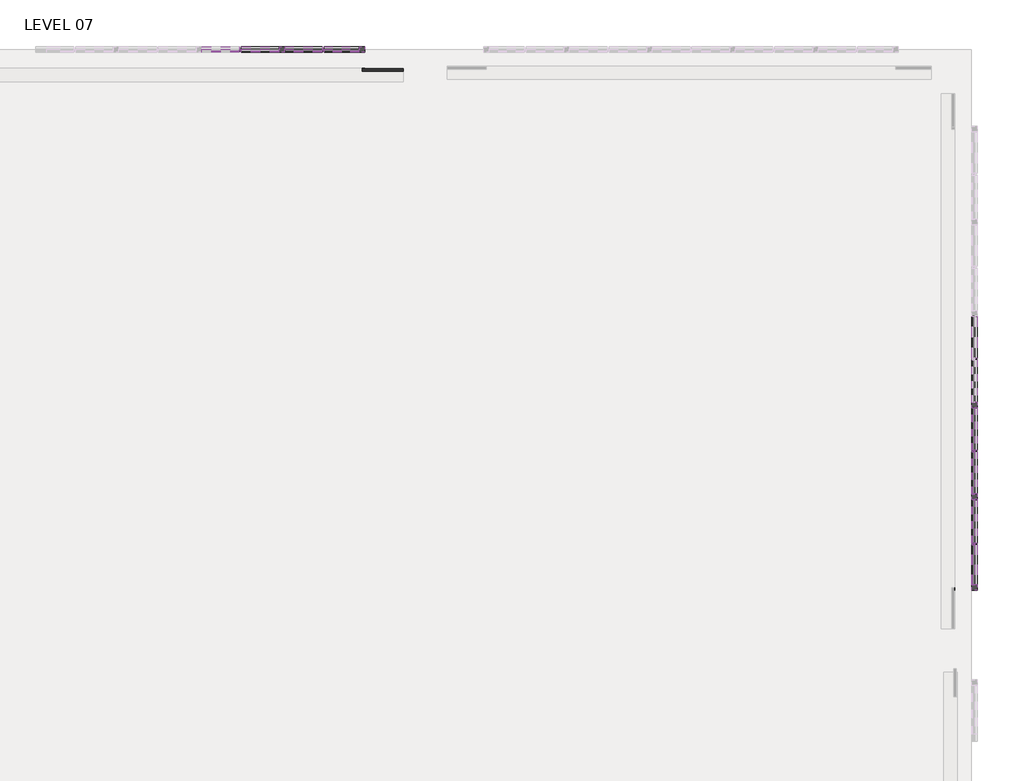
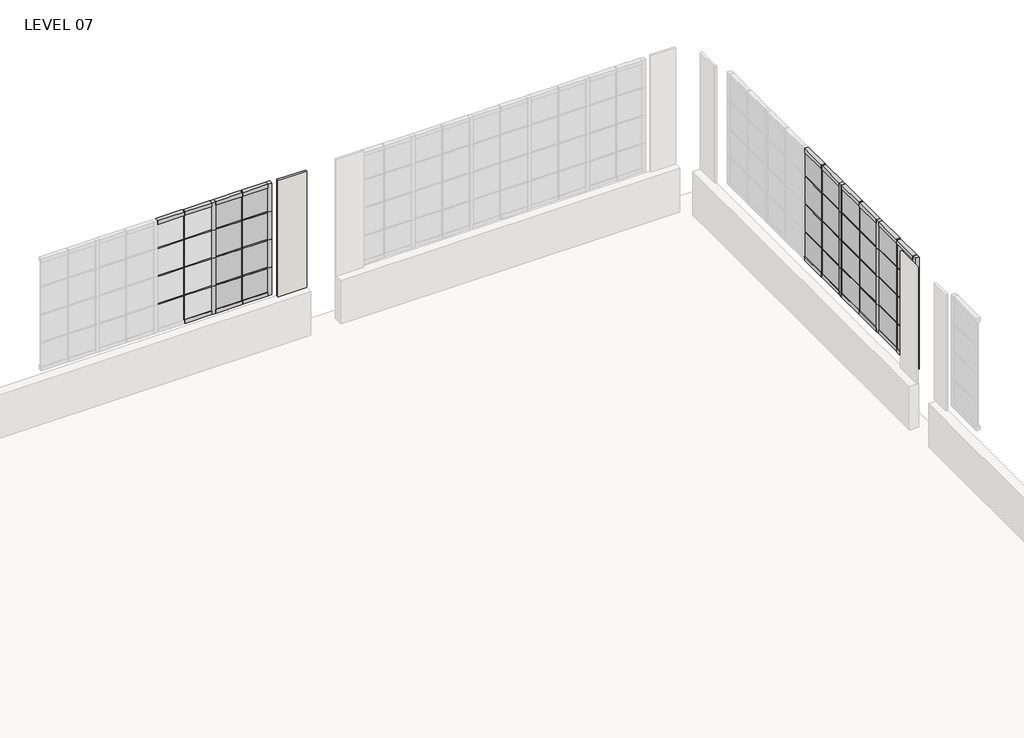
# One storey, part 13 of 15: 79 members, 32 plates, 3 walls.
"""IFC4 building model written with IfcOpenShell, lengths in millimetres."""

from ifc_helpers import new_model, si_unit, frame, origin, place, context, project, spatial, polyline, outline, extrude, faceted_brep, transform, mapped, element, save
from components import member_78bb2ef1, member_d9fe2114, member_fd592df6, member_5454a1e2, member_b79563ae, member_0fe428da, member_d251e4a5, member_378e0c06, member_17eb62f4, member_ba51e770, member_6e5aab5d, member_bacafba3, member_a6d649dc, member_a4f35c7f, member_8e47d4cd, member_ae2a2eb1, member_32b4be1d, member_1293f902, member_75ae02f4, system_panel_glazed_cd28395c, system_panel_glazed_f2669b12, system_panel_glazed_1e68634a, system_panel_glazed_e06c2ed7, system_panel_glazed_7e0f1b5c, system_panel_glazed_26de1e18, system_panel_glazed_c5f65025, system_panel_glazed_f888302b, system_panel_glazed_52d05554, system_panel_glazed_5ac43be7, system_panel_glazed_190d9c40, system_panel_glazed_114676b6, system_panel_glazed_84a10c8e, system_panel_glazed_44697018, system_panel_glazed_99b9b709, system_panel_glazed_bf1454fd

model = new_model("IFC4")

# Units and contexts
model_context = context("Model", 3, world=origin())
ifc_project = project(units=[si_unit("LENGTHUNIT", "METRE", prefix="MILLI")], contexts=[model_context])

# Site, building, storey
site = spatial("IfcSite", under=ifc_project)
building = spatial("IfcBuilding", under=site)
storey = spatial("IfcBuildingStorey", under=building, Name="LEVEL 07", Elevation=20802.6)

# Members
placement = place(None, origin())
member_shape = member_78bb2ef1(model_context)
element("IfcMember", 1, ObjectType="Rectangular Mullion : 1\" x 1\" - Butt Joint", at=placement, inside=storey, context=model_context, shape_type="MappedRepresentation", body=[
    mapped(member_shape, transform((-445.6849596, -7254.2239354, 23342.6), x_axis=(0.0, 1.0, 0.0), y_axis=(1.0, 0.0, 0.0), z_axis=(0.0, 0.0, -1.0))),
])
element("IfcMember", 2, ObjectType="Rectangular Mullion : 1\" x 1\" - Butt Joint", at=placement, inside=storey, context=model_context, shape_type="MappedRepresentation", body=[
    mapped(member_shape, transform((-445.6849596, -5966.495256, 23342.6), x_axis=(0.0, 1.0, 0.0), y_axis=(1.0, 0.0, 0.0), z_axis=(0.0, 0.0, -1.0))),
])
element("IfcMember", 3, ObjectType="Rectangular Mullion : 1\" x 1\" - Butt Joint", at=placement, inside=storey, context=model_context, shape_type="MappedRepresentation", body=[
    mapped(member_shape, transform((-445.6849596, -7254.2239354, 22174.2), x_axis=(0.0, 1.0, 0.0), y_axis=(1.0, 0.0, 0.0), z_axis=(0.0, 0.0, -1.0))),
])
element("IfcMember", 4, ObjectType="Rectangular Mullion : 1\" x 1\" - Butt Joint", at=placement, inside=storey, context=model_context, shape_type="MappedRepresentation", body=[
    mapped(member_shape, transform((-445.6849596, -7254.2239354, 22758.4), x_axis=(0.0, 1.0, 0.0), y_axis=(1.0, 0.0, 0.0), z_axis=(0.0, 0.0, -1.0))),
])
element("IfcMember", 5, ObjectType="Rectangular Mullion : 1\" x 1\" - Butt Joint", at=placement, inside=storey, context=model_context, shape_type="MappedRepresentation", body=[
    mapped(member_shape, transform((-445.6849596, -5966.495256, 22174.2), x_axis=(0.0, 1.0, 0.0), y_axis=(1.0, 0.0, 0.0), z_axis=(0.0, 0.0, -1.0))),
])
element("IfcMember", 6, ObjectType="Rectangular Mullion : 1\" x 1\" - Butt Joint", at=placement, inside=storey, context=model_context, shape_type="MappedRepresentation", body=[
    mapped(member_shape, transform((-445.6849596, -5966.495256, 22758.4), x_axis=(0.0, 1.0, 0.0), y_axis=(1.0, 0.0, 0.0), z_axis=(0.0, 0.0, -1.0))),
])
element("IfcMember", 7, ObjectType="Rectangular Mullion : 1\" x 1\" - Butt Joint", at=placement, inside=storey, context=model_context, shape_type="MappedRepresentation", body=[
    mapped(member_shape, transform((-445.6849596, -7254.2239354, 21590.0), x_axis=(0.0, 1.0, 0.0), y_axis=(1.0, 0.0, 0.0), z_axis=(0.0, 0.0, -1.0))),
])
element("IfcMember", 8, ObjectType="Rectangular Mullion : 1\" x 1\" - Butt Joint", at=placement, inside=storey, context=model_context, shape_type="MappedRepresentation", body=[
    mapped(member_shape, transform((-445.6849596, -5966.495256, 21590.0), x_axis=(0.0, 1.0, 0.0), y_axis=(1.0, 0.0, 0.0), z_axis=(0.0, 0.0, -1.0))),
])
member_2_shape = member_d9fe2114(model_context)
element("IfcMember", 9, ObjectType="Rectangular Mullion : 1\" x 1\" - Butt Joint", at=placement, inside=storey, context=model_context, shape_type="MappedRepresentation", body=[
    mapped(member_2_shape, transform((-10071.5771519, -412.75, 23342.6), x_axis=(0.0, 0.0, 1.0), y_axis=(0.0, -1.0, 0.0), z_axis=(1.0, 0.0, 0.0))),
])
element("IfcMember", 10, ObjectType="Rectangular Mullion : 1\" x 1\" - Butt Joint", at=placement, inside=storey, context=model_context, shape_type="MappedRepresentation", body=[
    mapped(member_2_shape, transform((-10620.2171519, -412.75, 23342.6), x_axis=(0.0, 0.0, 1.0), y_axis=(0.0, -1.0, 0.0), z_axis=(1.0, 0.0, 0.0))),
])
element("IfcMember", 11, ObjectType="Rectangular Mullion : 1\" x 1\" - Butt Joint", at=placement, inside=storey, context=model_context, shape_type="MappedRepresentation", body=[
    mapped(member_2_shape, transform((-9472.1371519, -412.75, 23342.6), x_axis=(0.0, 0.0, 1.0), y_axis=(0.0, -1.0, 0.0), z_axis=(1.0, 0.0, 0.0))),
])
element("IfcMember", 12, ObjectType="Rectangular Mullion : 1\" x 1\" - Butt Joint", at=placement, inside=storey, context=model_context, shape_type="MappedRepresentation", body=[
    mapped(member_2_shape, transform((-10071.5771519, -412.75, 22758.4), x_axis=(0.0, 0.0, 1.0), y_axis=(0.0, -1.0, 0.0), z_axis=(1.0, 0.0, 0.0))),
])
element("IfcMember", 13, ObjectType="Rectangular Mullion : 1\" x 1\" - Butt Joint", at=placement, inside=storey, context=model_context, shape_type="MappedRepresentation", body=[
    mapped(member_2_shape, transform((-10620.2171519, -412.75, 22758.4), x_axis=(0.0, 0.0, 1.0), y_axis=(0.0, -1.0, 0.0), z_axis=(1.0, 0.0, 0.0))),
])
element("IfcMember", 14, ObjectType="Rectangular Mullion : 1\" x 1\" - Butt Joint", at=placement, inside=storey, context=model_context, shape_type="MappedRepresentation", body=[
    mapped(member_2_shape, transform((-9472.1371519, -412.75, 22758.4), x_axis=(0.0, 0.0, 1.0), y_axis=(0.0, -1.0, 0.0), z_axis=(1.0, 0.0, 0.0))),
])
element("IfcMember", 15, ObjectType="Rectangular Mullion : 1\" x 1\" - Butt Joint", at=placement, inside=storey, context=model_context, shape_type="MappedRepresentation", body=[
    mapped(member_2_shape, transform((-10071.5771519, -412.75, 22174.2), x_axis=(0.0, 0.0, 1.0), y_axis=(0.0, -1.0, 0.0), z_axis=(1.0, 0.0, 0.0))),
])
element("IfcMember", 16, ObjectType="Rectangular Mullion : 1\" x 1\" - Butt Joint", at=placement, inside=storey, context=model_context, shape_type="MappedRepresentation", body=[
    mapped(member_2_shape, transform((-10620.2171519, -412.75, 22174.2), x_axis=(0.0, 0.0, 1.0), y_axis=(0.0, -1.0, 0.0), z_axis=(1.0, 0.0, 0.0))),
])
element("IfcMember", 17, ObjectType="Rectangular Mullion : 1\" x 1\" - Butt Joint", at=placement, inside=storey, context=model_context, shape_type="MappedRepresentation", body=[
    mapped(member_2_shape, transform((-9472.1371519, -412.75, 22174.2), x_axis=(0.0, 0.0, 1.0), y_axis=(0.0, -1.0, 0.0), z_axis=(1.0, 0.0, 0.0))),
])
member_3_shape = member_fd592df6(model_context)
element("IfcMember", 18, ObjectType="Rectangular Mullion : 1\" x 1\" - Butt Joint", at=placement, inside=storey, context=model_context, shape_type="MappedRepresentation", body=[
    mapped(member_3_shape, transform((-8961.5971519, -412.75, 23342.6), x_axis=(0.0, 0.0, 1.0), y_axis=(0.0, -1.0, 0.0), z_axis=(1.0, 0.0, 0.0))),
])
element("IfcMember", 19, ObjectType="Rectangular Mullion : 1\" x 1\" - Butt Joint", at=placement, inside=storey, context=model_context, shape_type="MappedRepresentation", body=[
    mapped(member_3_shape, transform((-8961.5971519, -412.75, 22758.4), x_axis=(0.0, 0.0, 1.0), y_axis=(0.0, -1.0, 0.0), z_axis=(1.0, 0.0, 0.0))),
])
element("IfcMember", 20, ObjectType="Rectangular Mullion : 1\" x 1\" - Butt Joint", at=placement, inside=storey, context=model_context, shape_type="MappedRepresentation", body=[
    mapped(member_3_shape, transform((-8961.5971519, -412.75, 22174.2), x_axis=(0.0, 0.0, 1.0), y_axis=(0.0, -1.0, 0.0), z_axis=(1.0, 0.0, 0.0))),
])
element("IfcMember", 21, ObjectType="Rectangular Mullion : 1\" x 1\" - Butt Joint", at=placement, inside=storey, context=model_context, shape_type="MappedRepresentation", body=[
    mapped(member_shape, transform((-9459.4371519, -412.75, 23342.6), x_axis=(1.0, 0.0, 0.0), y_axis=(0.0, -1.0, 0.0), z_axis=(0.0, 0.0, -1.0))),
])
element("IfcMember", 22, ObjectType="Rectangular Mullion : 1\" x 1\" - Butt Joint", at=placement, inside=storey, context=model_context, shape_type="MappedRepresentation", body=[
    mapped(member_shape, transform((-10607.5171519, -412.75, 23342.6), x_axis=(1.0, 0.0, 0.0), y_axis=(0.0, -1.0, 0.0), z_axis=(0.0, 0.0, -1.0))),
])
element("IfcMember", 23, ObjectType="Rectangular Mullion : 1\" x 1\" - Butt Joint", at=placement, inside=storey, context=model_context, shape_type="MappedRepresentation", body=[
    mapped(member_shape, transform((-9459.4371519, -412.75, 22174.2), x_axis=(1.0, 0.0, 0.0), y_axis=(0.0, -1.0, 0.0), z_axis=(0.0, 0.0, -1.0))),
])
element("IfcMember", 24, ObjectType="Rectangular Mullion : 1\" x 1\" - Butt Joint", at=placement, inside=storey, context=model_context, shape_type="MappedRepresentation", body=[
    mapped(member_shape, transform((-9459.4371519, -412.75, 22758.4), x_axis=(1.0, 0.0, 0.0), y_axis=(0.0, -1.0, 0.0), z_axis=(0.0, 0.0, -1.0))),
])
element("IfcMember", 25, ObjectType="Rectangular Mullion : 1\" x 1\" - Butt Joint", at=placement, inside=storey, context=model_context, shape_type="MappedRepresentation", body=[
    mapped(member_shape, transform((-10607.5171519, -412.75, 22174.2), x_axis=(1.0, 0.0, 0.0), y_axis=(0.0, -1.0, 0.0), z_axis=(0.0, 0.0, -1.0))),
])
element("IfcMember", 26, ObjectType="Rectangular Mullion : 1\" x 1\" - Butt Joint", at=placement, inside=storey, context=model_context, shape_type="MappedRepresentation", body=[
    mapped(member_shape, transform((-10607.5171519, -412.75, 22758.4), x_axis=(1.0, 0.0, 0.0), y_axis=(0.0, -1.0, 0.0), z_axis=(0.0, 0.0, -1.0))),
])
element("IfcMember", 27, ObjectType="Rectangular Mullion : 1\" x 1\" - Butt Joint", at=placement, inside=storey, context=model_context, shape_type="MappedRepresentation", body=[
    mapped(member_shape, transform((-9459.4371519, -412.75, 21590.0), x_axis=(1.0, 0.0, 0.0), y_axis=(0.0, -1.0, 0.0), z_axis=(0.0, 0.0, -1.0))),
])
element("IfcMember", 28, ObjectType="Rectangular Mullion : 1\" x 1\" - Butt Joint", at=placement, inside=storey, context=model_context, shape_type="MappedRepresentation", body=[
    mapped(member_shape, transform((-10607.5171519, -412.75, 21590.0), x_axis=(1.0, 0.0, 0.0), y_axis=(0.0, -1.0, 0.0), z_axis=(0.0, 0.0, -1.0))),
])
member_4_shape = member_5454a1e2(model_context)
element("IfcMember", 29, ObjectType="Rectangular Mullion : 1\" x 1\" - Butt Joint", at=placement, inside=storey, context=model_context, shape_type="MappedRepresentation", body=[
    mapped(member_4_shape, transform((-445.6849596, -6637.5924424, 23342.6), x_axis=(0.0, 0.0, 1.0), y_axis=(1.0, 0.0, 0.0), z_axis=(0.0, 1.0, 0.0))),
])
element("IfcMember", 30, ObjectType="Rectangular Mullion : 1\" x 1\" - Butt Joint", at=placement, inside=storey, context=model_context, shape_type="MappedRepresentation", body=[
    mapped(member_4_shape, transform((-445.6849596, -6637.5924424, 22758.4), x_axis=(0.0, 0.0, 1.0), y_axis=(1.0, 0.0, 0.0), z_axis=(0.0, 1.0, 0.0))),
])
element("IfcMember", 31, ObjectType="Rectangular Mullion : 1\" x 1\" - Butt Joint", at=placement, inside=storey, context=model_context, shape_type="MappedRepresentation", body=[
    mapped(member_4_shape, transform((-445.6849596, -6637.5924424, 22174.2), x_axis=(0.0, 0.0, 1.0), y_axis=(1.0, 0.0, 0.0), z_axis=(0.0, 1.0, 0.0))),
])
member_5_shape = member_b79563ae(model_context)
element("IfcMember", 32, ObjectType="Rectangular Mullion : 1\" x 1\" - Butt Joint", at=placement, inside=storey, context=model_context, shape_type="MappedRepresentation", body=[
    mapped(member_5_shape, transform((-445.6849596, -7266.9239354, 23342.6), x_axis=(0.0, 0.0, 1.0), y_axis=(1.0, 0.0, 0.0), z_axis=(0.0, 1.0, 0.0))),
])
element("IfcMember", 33, ObjectType="Rectangular Mullion : 1\" x 1\" - Butt Joint", at=placement, inside=storey, context=model_context, shape_type="MappedRepresentation", body=[
    mapped(member_5_shape, transform((-445.6849596, -7266.9239354, 22758.4), x_axis=(0.0, 0.0, 1.0), y_axis=(1.0, 0.0, 0.0), z_axis=(0.0, 1.0, 0.0))),
])
element("IfcMember", 34, ObjectType="Rectangular Mullion : 1\" x 1\" - Butt Joint", at=placement, inside=storey, context=model_context, shape_type="MappedRepresentation", body=[
    mapped(member_5_shape, transform((-445.6849596, -7266.9239354, 22174.2), x_axis=(0.0, 0.0, 1.0), y_axis=(1.0, 0.0, 0.0), z_axis=(0.0, 1.0, 0.0))),
])
member_6_shape = member_0fe428da(model_context)
element("IfcMember", 35, ObjectType="Rectangular Mullion : 1\" x 1\" - Butt Joint", at=placement, inside=storey, context=model_context, shape_type="MappedRepresentation", body=[
    mapped(member_6_shape, transform((-445.6849596, -5979.195256, 23342.6), x_axis=(0.0, 0.0, 1.0), y_axis=(1.0, 0.0, 0.0), z_axis=(0.0, 1.0, 0.0))),
])
element("IfcMember", 36, ObjectType="Rectangular Mullion : 1\" x 1\" - Butt Joint", at=placement, inside=storey, context=model_context, shape_type="MappedRepresentation", body=[
    mapped(member_6_shape, transform((-445.6849596, -5979.195256, 22758.4), x_axis=(0.0, 0.0, 1.0), y_axis=(1.0, 0.0, 0.0), z_axis=(0.0, 1.0, 0.0))),
])
element("IfcMember", 37, ObjectType="Rectangular Mullion : 1\" x 1\" - Butt Joint", at=placement, inside=storey, context=model_context, shape_type="MappedRepresentation", body=[
    mapped(member_6_shape, transform((-445.6849596, -5979.195256, 22174.2), x_axis=(0.0, 0.0, 1.0), y_axis=(1.0, 0.0, 0.0), z_axis=(0.0, 1.0, 0.0))),
])
member_7_shape = member_d251e4a5(model_context)
element("IfcMember", 38, ObjectType="Rectangular Mullion : 1\" x 1\" - Butt Joint", at=placement, inside=storey, context=model_context, shape_type="MappedRepresentation", body=[
    mapped(member_7_shape, transform((-445.6849596, -5368.9142902, 23342.6), x_axis=(0.0, 0.0, 1.0), y_axis=(1.0, 0.0, 0.0), z_axis=(0.0, 1.0, 0.0))),
])
element("IfcMember", 39, ObjectType="Rectangular Mullion : 1\" x 1\" - Butt Joint", at=placement, inside=storey, context=model_context, shape_type="MappedRepresentation", body=[
    mapped(member_7_shape, transform((-445.6849596, -5368.9142902, 22758.4), x_axis=(0.0, 0.0, 1.0), y_axis=(1.0, 0.0, 0.0), z_axis=(0.0, 1.0, 0.0))),
])
element("IfcMember", 40, ObjectType="Rectangular Mullion : 1\" x 1\" - Butt Joint", at=placement, inside=storey, context=model_context, shape_type="MappedRepresentation", body=[
    mapped(member_7_shape, transform((-445.6849596, -5368.9142902, 22174.2), x_axis=(0.0, 0.0, 1.0), y_axis=(1.0, 0.0, 0.0), z_axis=(0.0, 1.0, 0.0))),
])
member_8_shape = member_378e0c06(model_context)
element("IfcMember", 41, ObjectType="Rectangular Mullion : 3\" x 3\" Window Jamb", at=placement, inside=storey, context=model_context, shape_type="MappedRepresentation", body=[
    mapped(member_8_shape, transform((-445.6849596, -6599.4924424, 23342.6), x_axis=(0.0, 1.0, 0.0), y_axis=(1.0, 0.0, 0.0), z_axis=(0.0, 0.0, -1.0))),
])
element("IfcMember", 42, ObjectType="Rectangular Mullion : 3\" x 3\" Window Jamb", at=placement, inside=storey, context=model_context, shape_type="MappedRepresentation", body=[
    mapped(member_8_shape, transform((-445.6849596, -5330.8142902, 23342.6), x_axis=(0.0, 1.0, 0.0), y_axis=(1.0, 0.0, 0.0), z_axis=(0.0, 0.0, -1.0))),
])
member_9_shape = member_17eb62f4(model_context)
element("IfcMember", 43, ObjectType="Rectangular Mullion : 3\" x 3\" Window Jamb", at=placement, inside=storey, context=model_context, shape_type="MappedRepresentation", body=[
    mapped(member_9_shape, transform((-445.6849596, -7891.9738171, 23926.8), x_axis=(0.0, -1.0, 0.0), y_axis=(1.0, 0.0, 0.0), z_axis=(0.0, 0.0, 1.0))),
])
element("IfcMember", 44, ObjectType="Rectangular Mullion : 3\" x 3\" Window Jamb", at=placement, inside=storey, context=model_context, shape_type="MappedRepresentation", body=[
    mapped(member_8_shape, transform((-445.6849596, -6599.4924424, 22174.2), x_axis=(0.0, 1.0, 0.0), y_axis=(1.0, 0.0, 0.0), z_axis=(0.0, 0.0, -1.0))),
])
element("IfcMember", 45, ObjectType="Rectangular Mullion : 3\" x 3\" Window Jamb", at=placement, inside=storey, context=model_context, shape_type="MappedRepresentation", body=[
    mapped(member_8_shape, transform((-445.6849596, -6599.4924424, 22758.4), x_axis=(0.0, 1.0, 0.0), y_axis=(1.0, 0.0, 0.0), z_axis=(0.0, 0.0, -1.0))),
])
element("IfcMember", 46, ObjectType="Rectangular Mullion : 3\" x 3\" Window Jamb", at=placement, inside=storey, context=model_context, shape_type="MappedRepresentation", body=[
    mapped(member_8_shape, transform((-445.6849596, -5330.8142902, 22174.2), x_axis=(0.0, 1.0, 0.0), y_axis=(1.0, 0.0, 0.0), z_axis=(0.0, 0.0, -1.0))),
])
element("IfcMember", 47, ObjectType="Rectangular Mullion : 3\" x 3\" Window Jamb", at=placement, inside=storey, context=model_context, shape_type="MappedRepresentation", body=[
    mapped(member_8_shape, transform((-445.6849596, -5330.8142902, 22758.4), x_axis=(0.0, 1.0, 0.0), y_axis=(1.0, 0.0, 0.0), z_axis=(0.0, 0.0, -1.0))),
])
element("IfcMember", 48, ObjectType="Rectangular Mullion : 3\" x 3\" Window Jamb", at=placement, inside=storey, context=model_context, shape_type="MappedRepresentation", body=[
    mapped(member_9_shape, transform((-445.6849596, -7891.9738171, 23342.6), x_axis=(0.0, -1.0, 0.0), y_axis=(1.0, 0.0, 0.0), z_axis=(0.0, 0.0, 1.0))),
])
element("IfcMember", 49, ObjectType="Rectangular Mullion : 3\" x 3\" Window Jamb", at=placement, inside=storey, context=model_context, shape_type="MappedRepresentation", body=[
    mapped(member_9_shape, transform((-445.6849596, -7891.9738171, 22758.4), x_axis=(0.0, -1.0, 0.0), y_axis=(1.0, 0.0, 0.0), z_axis=(0.0, 0.0, 1.0))),
])
element("IfcMember", 50, ObjectType="Rectangular Mullion : 3\" x 3\" Window Jamb", at=placement, inside=storey, context=model_context, shape_type="MappedRepresentation", body=[
    mapped(member_8_shape, transform((-445.6849596, -6599.4924424, 21590.0), x_axis=(0.0, 1.0, 0.0), y_axis=(1.0, 0.0, 0.0), z_axis=(0.0, 0.0, -1.0))),
])
element("IfcMember", 51, ObjectType="Rectangular Mullion : 3\" x 3\" Window Jamb", at=placement, inside=storey, context=model_context, shape_type="MappedRepresentation", body=[
    mapped(member_8_shape, transform((-445.6849596, -5330.8142902, 21590.0), x_axis=(0.0, 1.0, 0.0), y_axis=(1.0, 0.0, 0.0), z_axis=(0.0, 0.0, -1.0))),
])
element("IfcMember", 52, ObjectType="Rectangular Mullion : 3\" x 3\" Window Jamb", at=placement, inside=storey, context=model_context, shape_type="MappedRepresentation", body=[
    mapped(member_9_shape, transform((-445.6849596, -7891.9738171, 22174.2), x_axis=(0.0, -1.0, 0.0), y_axis=(1.0, 0.0, 0.0), z_axis=(0.0, 0.0, 1.0))),
])
member_10_shape = member_ba51e770(model_context)
element("IfcMember", 53, ObjectType="Rectangular Mullion : 3\" x 3\" Window Jamb", at=placement, inside=storey, context=model_context, shape_type="MappedRepresentation", body=[
    mapped(member_10_shape, transform((-8961.5971519, -412.75, 23926.8), x_axis=(0.0, 0.0, 1.0), y_axis=(0.0, -1.0, 0.0), z_axis=(1.0, 0.0, 0.0))),
])
member_11_shape = member_6e5aab5d(model_context)
element("IfcMember", 54, ObjectType="Rectangular Mullion : 3\" x 3\" Window Jamb", at=placement, inside=storey, context=model_context, shape_type="MappedRepresentation", body=[
    mapped(member_11_shape, transform((-10620.2171519, -412.75, 23926.8), x_axis=(0.0, 0.0, 1.0), y_axis=(0.0, -1.0, 0.0), z_axis=(1.0, 0.0, 0.0))),
])
element("IfcMember", 55, ObjectType="Rectangular Mullion : 3\" x 3\" Window Jamb", at=placement, inside=storey, context=model_context, shape_type="MappedRepresentation", body=[
    mapped(member_11_shape, transform((-9472.1371519, -412.75, 23926.8), x_axis=(0.0, 0.0, 1.0), y_axis=(0.0, -1.0, 0.0), z_axis=(1.0, 0.0, 0.0))),
])
element("IfcMember", 56, ObjectType="Rectangular Mullion : 3\" x 3\" Window Jamb", at=placement, inside=storey, context=model_context, shape_type="MappedRepresentation", body=[
    mapped(member_11_shape, transform((-10071.5771519, -412.75, 23926.8), x_axis=(0.0, 0.0, 1.0), y_axis=(0.0, -1.0, 0.0), z_axis=(1.0, 0.0, 0.0))),
])
element("IfcMember", 57, ObjectType="Rectangular Mullion : 3\" x 3\" Window Jamb", at=placement, inside=storey, context=model_context, shape_type="MappedRepresentation", body=[
    mapped(member_11_shape, transform((-10594.8171519, -412.75, 21590.0), x_axis=(0.0, 0.0, -1.0), y_axis=(0.0, -1.0, 0.0), z_axis=(-1.0, 0.0, 0.0))),
])
element("IfcMember", 58, ObjectType="Rectangular Mullion : 3\" x 3\" Window Jamb", at=placement, inside=storey, context=model_context, shape_type="MappedRepresentation", body=[
    mapped(member_11_shape, transform((-9995.3771519, -412.75, 21590.0), x_axis=(0.0, 0.0, -1.0), y_axis=(0.0, -1.0, 0.0), z_axis=(-1.0, 0.0, 0.0))),
])
element("IfcMember", 59, ObjectType="Rectangular Mullion : 3\" x 3\" Window Jamb", at=placement, inside=storey, context=model_context, shape_type="MappedRepresentation", body=[
    mapped(member_10_shape, transform((-9446.7371519, -412.75, 21590.0), x_axis=(0.0, 0.0, -1.0), y_axis=(0.0, -1.0, 0.0), z_axis=(-1.0, 0.0, 0.0))),
])
member_12_shape = member_bacafba3(model_context)
element("IfcMember", 60, ObjectType="Rectangular Mullion : 3\" x 3\" Window Jamb", at=placement, inside=storey, context=model_context, shape_type="MappedRepresentation", body=[
    mapped(member_12_shape, transform((-10033.4771519, -412.75, 23342.6), x_axis=(1.0, 0.0, 0.0), y_axis=(0.0, -1.0, 0.0), z_axis=(0.0, 0.0, -1.0))),
])
element("IfcMember", 61, ObjectType="Rectangular Mullion : 3\" x 3\" Window Jamb", at=placement, inside=storey, context=model_context, shape_type="MappedRepresentation", body=[
    mapped(member_12_shape, transform((-10033.4771519, -412.75, 22174.2), x_axis=(1.0, 0.0, 0.0), y_axis=(0.0, -1.0, 0.0), z_axis=(0.0, 0.0, -1.0))),
])
element("IfcMember", 62, ObjectType="Rectangular Mullion : 3\" x 3\" Window Jamb", at=placement, inside=storey, context=model_context, shape_type="MappedRepresentation", body=[
    mapped(member_12_shape, transform((-10033.4771519, -412.75, 22758.4), x_axis=(1.0, 0.0, 0.0), y_axis=(0.0, -1.0, 0.0), z_axis=(0.0, 0.0, -1.0))),
])
element("IfcMember", 63, ObjectType="Rectangular Mullion : 3\" x 3\" Window Jamb", at=placement, inside=storey, context=model_context, shape_type="MappedRepresentation", body=[
    mapped(member_12_shape, transform((-10033.4771519, -412.75, 21590.0), x_axis=(1.0, 0.0, 0.0), y_axis=(0.0, -1.0, 0.0), z_axis=(0.0, 0.0, -1.0))),
])
member_13_shape = member_a6d649dc(model_context)
element("IfcMember", 64, ObjectType="Rectangular Mullion : 3\" x 3\" Window Jamb", at=placement, inside=storey, context=model_context, shape_type="MappedRepresentation", body=[
    mapped(member_13_shape, transform((-8885.3971519, -412.75, 23342.6), x_axis=(1.0, 0.0, 0.0), y_axis=(0.0, -1.0, 0.0), z_axis=(0.0, 0.0, -1.0))),
])
element("IfcMember", 65, ObjectType="Rectangular Mullion : 3\" x 3\" Window Jamb", at=placement, inside=storey, context=model_context, shape_type="MappedRepresentation", body=[
    mapped(member_13_shape, transform((-8885.3971519, -412.75, 22174.2), x_axis=(1.0, 0.0, 0.0), y_axis=(0.0, -1.0, 0.0), z_axis=(0.0, 0.0, -1.0))),
])
element("IfcMember", 66, ObjectType="Rectangular Mullion : 3\" x 3\" Window Jamb", at=placement, inside=storey, context=model_context, shape_type="MappedRepresentation", body=[
    mapped(member_13_shape, transform((-8885.3971519, -412.75, 22758.4), x_axis=(1.0, 0.0, 0.0), y_axis=(0.0, -1.0, 0.0), z_axis=(0.0, 0.0, -1.0))),
])
element("IfcMember", 67, ObjectType="Rectangular Mullion : 3\" x 3\" Window Jamb", at=placement, inside=storey, context=model_context, shape_type="MappedRepresentation", body=[
    mapped(member_13_shape, transform((-8885.3971519, -412.75, 21590.0), x_axis=(1.0, 0.0, 0.0), y_axis=(0.0, -1.0, 0.0), z_axis=(0.0, 0.0, -1.0))),
])
member_14_shape = member_a4f35c7f(model_context)
element("IfcMember", 68, ObjectType="Rectangular Mullion : 3\" x 3\" Window Jamb", at=placement, inside=storey, context=model_context, shape_type="MappedRepresentation", body=[
    mapped(member_14_shape, transform((-445.6849596, -7266.9239354, 23926.8), x_axis=(0.0, 0.0, 1.0), y_axis=(1.0, 0.0, 0.0), z_axis=(0.0, 1.0, 0.0))),
])
member_15_shape = member_8e47d4cd(model_context)
element("IfcMember", 69, ObjectType="Rectangular Mullion : 3\" x 3\" Window Jamb", at=placement, inside=storey, context=model_context, shape_type="MappedRepresentation", body=[
    mapped(member_15_shape, transform((-445.6849596, -6637.5924424, 23926.8), x_axis=(0.0, 0.0, 1.0), y_axis=(1.0, 0.0, 0.0), z_axis=(0.0, 1.0, 0.0))),
])
element("IfcMember", 70, ObjectType="Rectangular Mullion : 3\" x 3\" Window Jamb", at=placement, inside=storey, context=model_context, shape_type="MappedRepresentation", body=[
    mapped(member_15_shape, transform((-445.6849596, -7241.5239354, 21590.0), x_axis=(0.0, 0.0, -1.0), y_axis=(1.0, 0.0, 0.0), z_axis=(0.0, -1.0, 0.0))),
])
element("IfcMember", 71, ObjectType="Rectangular Mullion : 3\" x 3\" Window Jamb", at=placement, inside=storey, context=model_context, shape_type="MappedRepresentation", body=[
    mapped(member_14_shape, transform((-445.6849596, -7815.7738171, 21590.0), x_axis=(0.0, 0.0, -1.0), y_axis=(1.0, 0.0, 0.0), z_axis=(0.0, -1.0, 0.0))),
])
member_16_shape = member_ae2a2eb1(model_context)
element("IfcMember", 72, ObjectType="Rectangular Mullion : 3\" x 3\" Window Jamb", at=placement, inside=storey, context=model_context, shape_type="MappedRepresentation", body=[
    mapped(member_16_shape, transform((-445.6849596, -5979.195256, 23926.8), x_axis=(0.0, 0.0, 1.0), y_axis=(1.0, 0.0, 0.0), z_axis=(0.0, 1.0, 0.0))),
])
element("IfcMember", 73, ObjectType="Rectangular Mullion : 3\" x 3\" Window Jamb", at=placement, inside=storey, context=model_context, shape_type="MappedRepresentation", body=[
    mapped(member_16_shape, transform((-445.6849596, -6561.3924424, 21590.0), x_axis=(0.0, 0.0, -1.0), y_axis=(1.0, 0.0, 0.0), z_axis=(0.0, -1.0, 0.0))),
])
member_17_shape = member_32b4be1d(model_context)
element("IfcMember", 74, ObjectType="Rectangular Mullion : 3\" x 3\" Window Jamb", at=placement, inside=storey, context=model_context, shape_type="MappedRepresentation", body=[
    mapped(member_17_shape, transform((-445.6849596, -5368.9142902, 23926.8), x_axis=(0.0, 0.0, 1.0), y_axis=(1.0, 0.0, 0.0), z_axis=(0.0, 1.0, 0.0))),
])
element("IfcMember", 75, ObjectType="Rectangular Mullion : 3\" x 3\" Window Jamb", at=placement, inside=storey, context=model_context, shape_type="MappedRepresentation", body=[
    mapped(member_17_shape, transform((-445.6849596, -5953.795256, 21590.0), x_axis=(0.0, 0.0, -1.0), y_axis=(1.0, 0.0, 0.0), z_axis=(0.0, -1.0, 0.0))),
])
member_18_shape = member_1293f902(model_context)
element("IfcMember", 76, ObjectType="Rectangular Mullion : 3\" x 3\" Window Jamb", at=placement, inside=storey, context=model_context, shape_type="MappedRepresentation", body=[
    mapped(member_18_shape, transform((-445.6849596, -4703.2244085, 23926.8), x_axis=(0.0, 0.0, 1.0), y_axis=(1.0, 0.0, 0.0), z_axis=(0.0, 1.0, 0.0))),
])
element("IfcMember", 77, ObjectType="Rectangular Mullion : 3\" x 3\" Window Jamb", at=placement, inside=storey, context=model_context, shape_type="MappedRepresentation", body=[
    mapped(member_18_shape, transform((-445.6849596, -5292.7142902, 21590.0), x_axis=(0.0, 0.0, -1.0), y_axis=(1.0, 0.0, 0.0), z_axis=(0.0, -1.0, 0.0))),
])
member_19_shape = member_75ae02f4(model_context)
element("IfcMember", 78, ObjectType="Rectangular Mullion : 3\" x 3\" Window Jamb", at=placement, inside=storey, context=model_context, shape_type="MappedRepresentation", body=[
    mapped(member_19_shape, transform((-445.6849596, -4097.8595268, 23926.8), x_axis=(0.0, 0.0, 1.0), y_axis=(1.0, 0.0, 0.0), z_axis=(0.0, 1.0, 0.0))),
])
element("IfcMember", 79, ObjectType="Rectangular Mullion : 3\" x 3\" Window Jamb", at=placement, inside=storey, context=model_context, shape_type="MappedRepresentation", body=[
    mapped(member_19_shape, transform((-445.6849596, -4677.8244085, 21590.0), x_axis=(0.0, 0.0, -1.0), y_axis=(1.0, 0.0, 0.0), z_axis=(0.0, -1.0, 0.0))),
])

# Plates
system_panel_glazed_shape = system_panel_glazed_cd28395c(model_context)
element("IfcPlate", 80, ObjectType="System Panel : Glazed", at=placement, inside=storey, context=model_context, shape_type="MappedRepresentation", body=[
    mapped(system_panel_glazed_shape, transform((-445.6849596, -7541.3488762, 21666.2), x_axis=(0.0, 1.0, 0.0), y_axis=(-1.0, 0.0, 0.0), z_axis=(0.0, 0.0, 1.0))),
])
element("IfcPlate", 81, ObjectType="System Panel : Glazed", at=placement, inside=storey, context=model_context, shape_type="MappedRepresentation", body=[
    mapped(system_panel_glazed_shape, transform((-445.6849596, -7541.3488762, 23355.3), x_axis=(0.0, 1.0, 0.0), y_axis=(-1.0, 0.0, 0.0), z_axis=(0.0, 0.0, 1.0))),
])
system_panel_glazed_2_shape = system_panel_glazed_f2669b12(model_context)
element("IfcPlate", 82, ObjectType="System Panel : Glazed", at=placement, inside=storey, context=model_context, shape_type="MappedRepresentation", body=[
    mapped(system_panel_glazed_2_shape, transform((-445.6849596, -6270.2938492, 21666.2), x_axis=(0.0, 1.0, 0.0), y_axis=(-1.0, 0.0, 0.0), z_axis=(0.0, 0.0, 1.0))),
])
element("IfcPlate", 83, ObjectType="System Panel : Glazed", at=placement, inside=storey, context=model_context, shape_type="MappedRepresentation", body=[
    mapped(system_panel_glazed_2_shape, transform((-445.6849596, -6270.2938492, 23355.3), x_axis=(0.0, 1.0, 0.0), y_axis=(-1.0, 0.0, 0.0), z_axis=(0.0, 0.0, 1.0))),
])
system_panel_glazed_3_shape = system_panel_glazed_1e68634a(model_context)
element("IfcPlate", 84, ObjectType="System Panel : Glazed", at=placement, inside=storey, context=model_context, shape_type="MappedRepresentation", body=[
    mapped(system_panel_glazed_3_shape, transform((-445.6849596, -4997.9693494, 21666.2), x_axis=(0.0, 1.0, 0.0), y_axis=(-1.0, 0.0, 0.0), z_axis=(0.0, 0.0, 1.0))),
])
element("IfcPlate", 85, ObjectType="System Panel : Glazed", at=placement, inside=storey, context=model_context, shape_type="MappedRepresentation", body=[
    mapped(system_panel_glazed_3_shape, transform((-445.6849596, -4997.9693494, 23355.3), x_axis=(0.0, 1.0, 0.0), y_axis=(-1.0, 0.0, 0.0), z_axis=(0.0, 0.0, 1.0))),
])
system_panel_glazed_4_shape = system_panel_glazed_e06c2ed7(model_context)
element("IfcPlate", 86, ObjectType="System Panel : Glazed", at=placement, inside=storey, context=model_context, shape_type="MappedRepresentation", body=[
    mapped(system_panel_glazed_4_shape, transform((-445.6849596, -7541.3488762, 22771.1), x_axis=(0.0, 1.0, 0.0), y_axis=(-1.0, 0.0, 0.0), z_axis=(0.0, 0.0, 1.0))),
])
element("IfcPlate", 87, ObjectType="System Panel : Glazed", at=placement, inside=storey, context=model_context, shape_type="MappedRepresentation", body=[
    mapped(system_panel_glazed_4_shape, transform((-445.6849596, -7541.3488762, 22186.9), x_axis=(0.0, 1.0, 0.0), y_axis=(-1.0, 0.0, 0.0), z_axis=(0.0, 0.0, 1.0))),
])
system_panel_glazed_5_shape = system_panel_glazed_7e0f1b5c(model_context)
element("IfcPlate", 88, ObjectType="System Panel : Glazed", at=placement, inside=storey, context=model_context, shape_type="MappedRepresentation", body=[
    mapped(system_panel_glazed_5_shape, transform((-445.6849596, -6270.2938492, 22771.1), x_axis=(0.0, 1.0, 0.0), y_axis=(-1.0, 0.0, 0.0), z_axis=(0.0, 0.0, 1.0))),
])
element("IfcPlate", 89, ObjectType="System Panel : Glazed", at=placement, inside=storey, context=model_context, shape_type="MappedRepresentation", body=[
    mapped(system_panel_glazed_5_shape, transform((-445.6849596, -6270.2938492, 22186.9), x_axis=(0.0, 1.0, 0.0), y_axis=(-1.0, 0.0, 0.0), z_axis=(0.0, 0.0, 1.0))),
])
system_panel_glazed_6_shape = system_panel_glazed_26de1e18(model_context)
element("IfcPlate", 90, ObjectType="System Panel : Glazed", at=placement, inside=storey, context=model_context, shape_type="MappedRepresentation", body=[
    mapped(system_panel_glazed_6_shape, transform((-445.6849596, -4997.9693494, 22771.1), x_axis=(0.0, 1.0, 0.0), y_axis=(-1.0, 0.0, 0.0), z_axis=(0.0, 0.0, 1.0))),
])
element("IfcPlate", 91, ObjectType="System Panel : Glazed", at=placement, inside=storey, context=model_context, shape_type="MappedRepresentation", body=[
    mapped(system_panel_glazed_6_shape, transform((-445.6849596, -4997.9693494, 22186.9), x_axis=(0.0, 1.0, 0.0), y_axis=(-1.0, 0.0, 0.0), z_axis=(0.0, 0.0, 1.0))),
])
system_panel_glazed_7_shape = system_panel_glazed_c5f65025(model_context)
element("IfcPlate", 92, ObjectType="System Panel : Glazed", at=placement, inside=storey, context=model_context, shape_type="MappedRepresentation", body=[
    mapped(system_panel_glazed_7_shape, transform((-445.6849596, -6939.5581889, 21666.2), x_axis=(0.0, 1.0, 0.0), y_axis=(-1.0, 0.0, 0.0), z_axis=(0.0, 0.0, 1.0))),
])
element("IfcPlate", 93, ObjectType="System Panel : Glazed", at=placement, inside=storey, context=model_context, shape_type="MappedRepresentation", body=[
    mapped(system_panel_glazed_7_shape, transform((-445.6849596, -6939.5581889, 23355.3), x_axis=(0.0, 1.0, 0.0), y_axis=(-1.0, 0.0, 0.0), z_axis=(0.0, 0.0, 1.0))),
])
system_panel_glazed_8_shape = system_panel_glazed_f888302b(model_context)
element("IfcPlate", 94, ObjectType="System Panel : Glazed", at=placement, inside=storey, context=model_context, shape_type="MappedRepresentation", body=[
    mapped(system_panel_glazed_8_shape, transform((-445.6849596, -6939.5581889, 22186.9), x_axis=(0.0, 1.0, 0.0), y_axis=(-1.0, 0.0, 0.0), z_axis=(0.0, 0.0, 1.0))),
])
element("IfcPlate", 95, ObjectType="System Panel : Glazed", at=placement, inside=storey, context=model_context, shape_type="MappedRepresentation", body=[
    mapped(system_panel_glazed_8_shape, transform((-445.6849596, -6939.5581889, 22771.1), x_axis=(0.0, 1.0, 0.0), y_axis=(-1.0, 0.0, 0.0), z_axis=(0.0, 0.0, 1.0))),
])
system_panel_glazed_9_shape = system_panel_glazed_52d05554(model_context)
element("IfcPlate", 96, ObjectType="System Panel : Glazed", at=placement, inside=storey, context=model_context, shape_type="MappedRepresentation", body=[
    mapped(system_panel_glazed_9_shape, transform((-445.6849596, -5661.3547731, 21666.2), x_axis=(0.0, 1.0, 0.0), y_axis=(-1.0, 0.0, 0.0), z_axis=(0.0, 0.0, 1.0))),
])
element("IfcPlate", 97, ObjectType="System Panel : Glazed", at=placement, inside=storey, context=model_context, shape_type="MappedRepresentation", body=[
    mapped(system_panel_glazed_9_shape, transform((-445.6849596, -5661.3547731, 23355.3), x_axis=(0.0, 1.0, 0.0), y_axis=(-1.0, 0.0, 0.0), z_axis=(0.0, 0.0, 1.0))),
])
system_panel_glazed_10_shape = system_panel_glazed_5ac43be7(model_context)
element("IfcPlate", 98, ObjectType="System Panel : Glazed", at=placement, inside=storey, context=model_context, shape_type="MappedRepresentation", body=[
    mapped(system_panel_glazed_10_shape, transform((-445.6849596, -5661.3547731, 22186.9), x_axis=(0.0, 1.0, 0.0), y_axis=(-1.0, 0.0, 0.0), z_axis=(0.0, 0.0, 1.0))),
])
element("IfcPlate", 99, ObjectType="System Panel : Glazed", at=placement, inside=storey, context=model_context, shape_type="MappedRepresentation", body=[
    mapped(system_panel_glazed_10_shape, transform((-445.6849596, -5661.3547731, 22771.1), x_axis=(0.0, 1.0, 0.0), y_axis=(-1.0, 0.0, 0.0), z_axis=(0.0, 0.0, 1.0))),
])
system_panel_glazed_11_shape = system_panel_glazed_190d9c40(model_context)
element("IfcPlate", 100, ObjectType="System Panel : Glazed", at=placement, inside=storey, context=model_context, shape_type="MappedRepresentation", body=[
    mapped(system_panel_glazed_11_shape, transform((-445.6849596, -4387.8419677, 21666.2), x_axis=(0.0, 1.0, 0.0), y_axis=(-1.0, 0.0, 0.0), z_axis=(0.0, 0.0, 1.0))),
])
element("IfcPlate", 101, ObjectType="System Panel : Glazed", at=placement, inside=storey, context=model_context, shape_type="MappedRepresentation", body=[
    mapped(system_panel_glazed_11_shape, transform((-445.6849596, -4387.8419677, 23355.3), x_axis=(0.0, 1.0, 0.0), y_axis=(-1.0, 0.0, 0.0), z_axis=(0.0, 0.0, 1.0))),
])
system_panel_glazed_12_shape = system_panel_glazed_114676b6(model_context)
element("IfcPlate", 102, ObjectType="System Panel : Glazed", at=placement, inside=storey, context=model_context, shape_type="MappedRepresentation", body=[
    mapped(system_panel_glazed_12_shape, transform((-445.6849596, -4387.8419677, 22186.9), x_axis=(0.0, 1.0, 0.0), y_axis=(-1.0, 0.0, 0.0), z_axis=(0.0, 0.0, 1.0))),
])
element("IfcPlate", 103, ObjectType="System Panel : Glazed", at=placement, inside=storey, context=model_context, shape_type="MappedRepresentation", body=[
    mapped(system_panel_glazed_12_shape, transform((-445.6849596, -4387.8419677, 22771.1), x_axis=(0.0, 1.0, 0.0), y_axis=(-1.0, 0.0, 0.0), z_axis=(0.0, 0.0, 1.0))),
])
system_panel_glazed_13_shape = system_panel_glazed_84a10c8e(model_context)
element("IfcPlate", 104, ObjectType="System Panel : Glazed", at=placement, inside=storey, context=model_context, shape_type="MappedRepresentation", body=[
    mapped(system_panel_glazed_13_shape, transform((-9204.1671519, -412.75, 21666.2), x_axis=(1.0, 0.0, 0.0), y_axis=(0.0, 1.0, 0.0), z_axis=(0.0, 0.0, 1.0))),
])
element("IfcPlate", 105, ObjectType="System Panel : Glazed", at=placement, inside=storey, context=model_context, shape_type="MappedRepresentation", body=[
    mapped(system_panel_glazed_13_shape, transform((-9204.1671519, -412.75, 23355.3), x_axis=(1.0, 0.0, 0.0), y_axis=(0.0, 1.0, 0.0), z_axis=(0.0, 0.0, 1.0))),
])
system_panel_glazed_14_shape = system_panel_glazed_44697018(model_context)
element("IfcPlate", 106, ObjectType="System Panel : Glazed", at=placement, inside=storey, context=model_context, shape_type="MappedRepresentation", body=[
    mapped(system_panel_glazed_14_shape, transform((-9733.7571519, -412.75, 21666.2), x_axis=(1.0, 0.0, 0.0), y_axis=(0.0, 1.0, 0.0), z_axis=(0.0, 0.0, 1.0))),
])
element("IfcPlate", 107, ObjectType="System Panel : Glazed", at=placement, inside=storey, context=model_context, shape_type="MappedRepresentation", body=[
    mapped(system_panel_glazed_14_shape, transform((-9733.7571519, -412.75, 23355.3), x_axis=(1.0, 0.0, 0.0), y_axis=(0.0, 1.0, 0.0), z_axis=(0.0, 0.0, 1.0))),
])
system_panel_glazed_15_shape = system_panel_glazed_99b9b709(model_context)
element("IfcPlate", 108, ObjectType="System Panel : Glazed", at=placement, inside=storey, context=model_context, shape_type="MappedRepresentation", body=[
    mapped(system_panel_glazed_15_shape, transform((-9204.1671519, -412.75, 22186.9), x_axis=(1.0, 0.0, 0.0), y_axis=(0.0, 1.0, 0.0), z_axis=(0.0, 0.0, 1.0))),
])
element("IfcPlate", 109, ObjectType="System Panel : Glazed", at=placement, inside=storey, context=model_context, shape_type="MappedRepresentation", body=[
    mapped(system_panel_glazed_15_shape, transform((-9204.1671519, -412.75, 22771.1), x_axis=(1.0, 0.0, 0.0), y_axis=(0.0, 1.0, 0.0), z_axis=(0.0, 0.0, 1.0))),
])
system_panel_glazed_16_shape = system_panel_glazed_bf1454fd(model_context)
element("IfcPlate", 110, ObjectType="System Panel : Glazed", at=placement, inside=storey, context=model_context, shape_type="MappedRepresentation", body=[
    mapped(system_panel_glazed_16_shape, transform((-9733.7571519, -412.75, 22771.1), x_axis=(1.0, 0.0, 0.0), y_axis=(0.0, 1.0, 0.0), z_axis=(0.0, 0.0, 1.0))),
])
element("IfcPlate", 111, ObjectType="System Panel : Glazed", at=placement, inside=storey, context=model_context, shape_type="MappedRepresentation", body=[
    mapped(system_panel_glazed_16_shape, transform((-9733.7571519, -412.75, 22186.9), x_axis=(1.0, 0.0, 0.0), y_axis=(0.0, 1.0, 0.0), z_axis=(0.0, 0.0, 1.0))),
])

# Walls
element("IfcWall", 112, ObjectType="Partition F0_", at=placement, inside=storey, context=model_context, shape_type="Brep", body=[
    faceted_brep([(-8352.0721136, -671.5125, 21717.0), (-8885.3971519, -671.5125, 21717.0), (-8920.3221519, -671.5125, 21717.0), (-8920.3221519, -671.5125, 24155.4), (-8885.3971519, -671.5125, 24155.4), (-8352.0721136, -671.5125, 24155.4), (-8352.0721136, -706.4375, 21717.0), (-8352.0721136, -706.4375, 24155.4), (-8920.3221519, -706.4375, 24155.4), (-8920.3221519, -706.4375, 21717.0)], [[[0, 1, 2, 3, 4, 5]], [[6, 7, 8, 9]], [[2, 1, 0, 6, 9]], [[5, 4, 3, 8, 7]], [[0, 5, 7, 6]], [[3, 2, 9, 8]]]),
])
element("IfcWall", 113, ObjectType="Partition F0_", at=placement, inside=storey, context=model_context, shape_type="SweptSolid", body=[
    extrude(outline(polyline([(-8885.3971519, -663.575), (-8885.3971519, -671.5125), (-8920.3221519, -671.5125), (-8920.3221519, -663.575), (-8885.3971519, -663.575)])), frame((0.0, 0.0, 21717.0), z_axis=(0.0, 0.0, 1.0), x_axis=(1.0, 0.0, 0.0)), (0.0, 0.0, 1.0), 2438.4),
])
element("IfcWall", 114, ObjectType="Partition F0_", at=placement, inside=storey, context=model_context, shape_type="SweptSolid", body=[
    extrude(outline(polyline([(-709.2099596, -7891.9738171), (-713.9724596, -7891.9738171), (-713.9724596, -7857.0488171), (-709.2099596, -7857.0488171), (-709.2099596, -7891.9738171)])), frame((0.0, 0.0, 21717.0), z_axis=(0.0, 0.0, 1.0), x_axis=(1.0, 0.0, 0.0)), (0.0, 0.0, 1.0), 2438.4),
])

save(model, "model.ifc")
